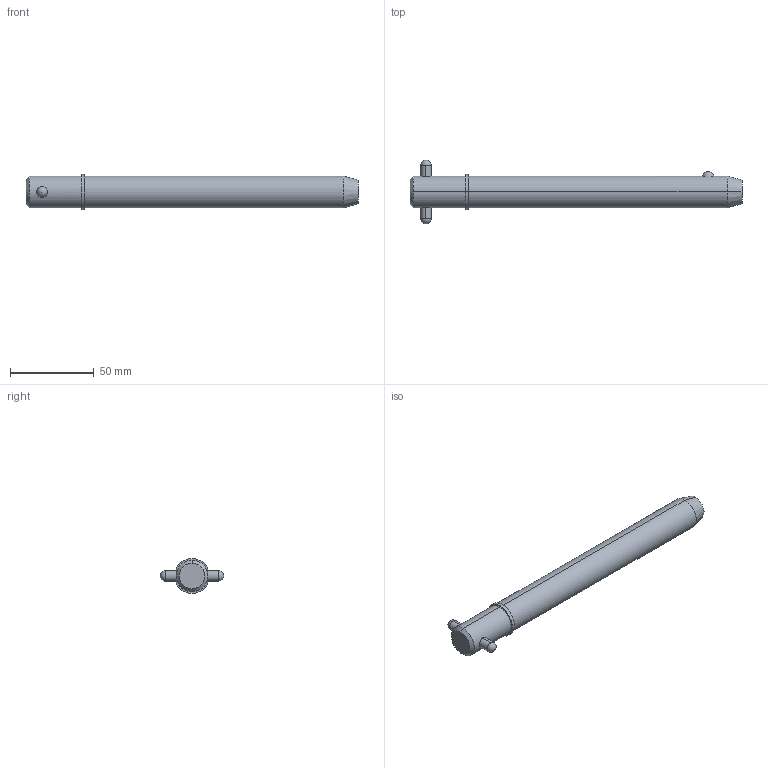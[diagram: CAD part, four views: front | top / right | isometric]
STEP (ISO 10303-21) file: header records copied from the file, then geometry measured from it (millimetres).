
FILE_DESCRIPTION (( 'STEP AP203' ), '1' );
FILE_NAME ('33018.W7555.step', '2024-11-19T17:21:08', ( '' ), ( '' ), 'SwSTEP 2.0', 'SolidWorks 2019', '' );
FILE_SCHEMA (( 'CONFIG_CONTROL_DESIGN' ));
Length unit declared in the file: millimetre
Products named in the file (3): 33018.W7555; Part2_33018.W7555; Part1_33018.W7555
Assembly tree (2 placements, depth 2):
  33018.W7555
    Part1_33018.W7555
    Part2_33018.W7555
Bounding box: 198.43 x 38.1 x 20.95 mm (x, y, z)
Volume: 56603.4 mm3; surface area: 13424 mm2
Topology: 2 solids, 2 shells, 22 faces, 47 edges, 30 vertices
Faces by surface type: cylinder 10, sphere 4, cone 4, plane 4
Entity records: 1041 total; most frequent: CARTESIAN_POINT 284, DIRECTION 110, ORIENTED_EDGE 82, AXIS2_PLACEMENT_3D 48, EDGE_CURVE 41, EDGE_LOOP 27, VERTEX_POINT 26, PERSON_AND_ORGANIZATION 26
